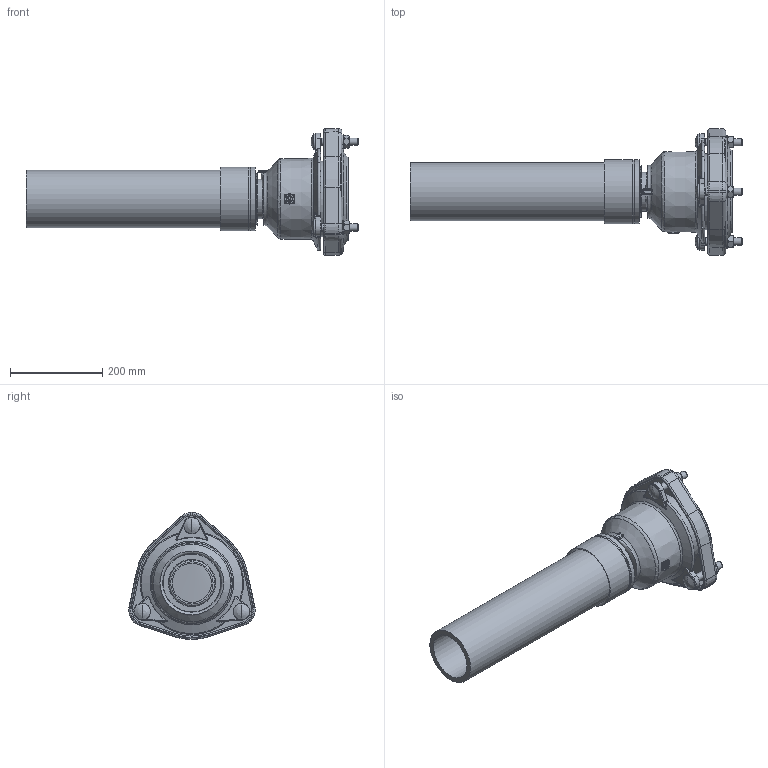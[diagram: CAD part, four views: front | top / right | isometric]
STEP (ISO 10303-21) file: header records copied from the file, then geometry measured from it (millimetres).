
FILE_DESCRIPTION((''),'2;1');
FILE_NAME('P:\Fastrack\54361_VIKING JOHNSON 3D\ULTRAGRIP\Component Parts\Components Built up\Pecatadaptor\125MMx125SDR11-UltraGrip-Pecat-Adaptor.stp','2012-05-09T10:49:56',('dcole'),(''),'Autodesk Inventor 2008','Autodesk Inventor 2008','');
FILE_SCHEMA(('AUTOMOTIVE_DESIGN { 1 0 10303 214 1 1 1 1 }'));
Length unit declared in the file: millimetre
Products named in the file (1): 125MMx125SDR11-UltraGrip-Pecat-Adaptor
Bounding box: 719 x 274.22 x 275.22 mm (x, y, z)
Surface area: 830158.2 mm2 (no closed solid volume)
Topology: 0 solids, 1 shells, 508 faces, 1269 edges, 786 vertices
Faces by surface type: plane 149, cylinder 139, cone 81, bspline 79, torus 60
Full cylindrical faces by diameter (mm): 13 x1, 15.7 x6, 16 x3, 18.233 x3, 30 x3, 35.2 x3, 85 x1, 102.2 x1, 125 x2, 127.1 x2, 138.25 x3, 156 x1, 157 x1, 158 x1, 164 x1
Entity records: 25146 total; most frequent: CARTESIAN_POINT 13368, ORIENTED_EDGE 2308, DIRECTION 2280, EDGE_CURVE 1154, AXIS2_PLACEMENT_3D 945, VERTEX_POINT 748, EDGE_LOOP 616, STYLED_ITEM 506
